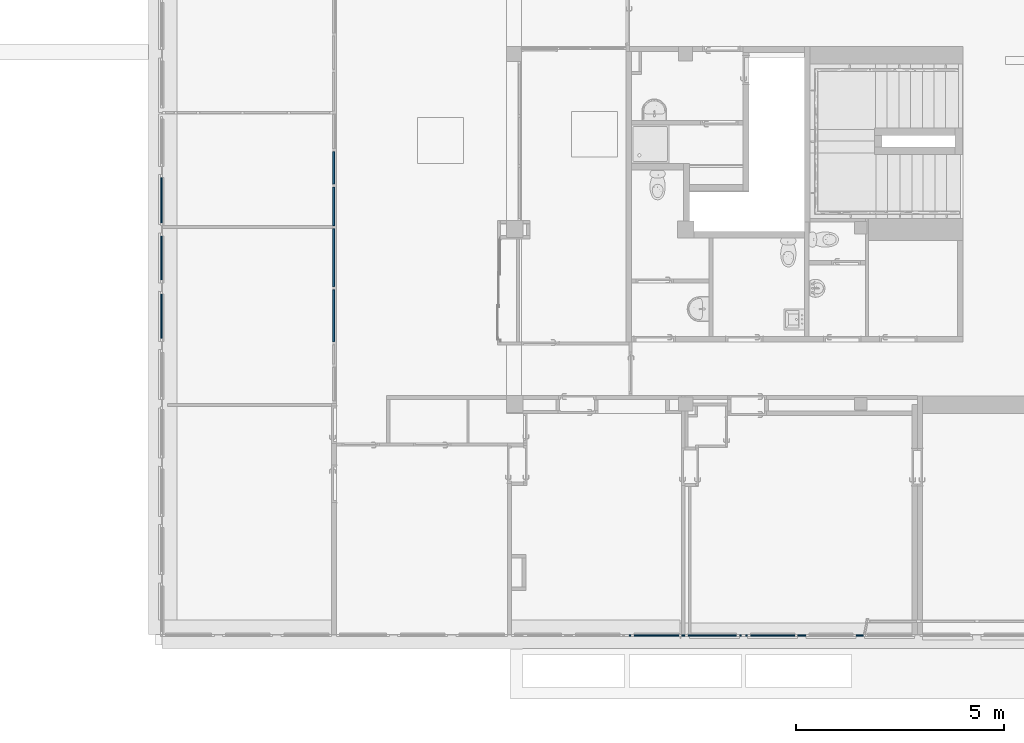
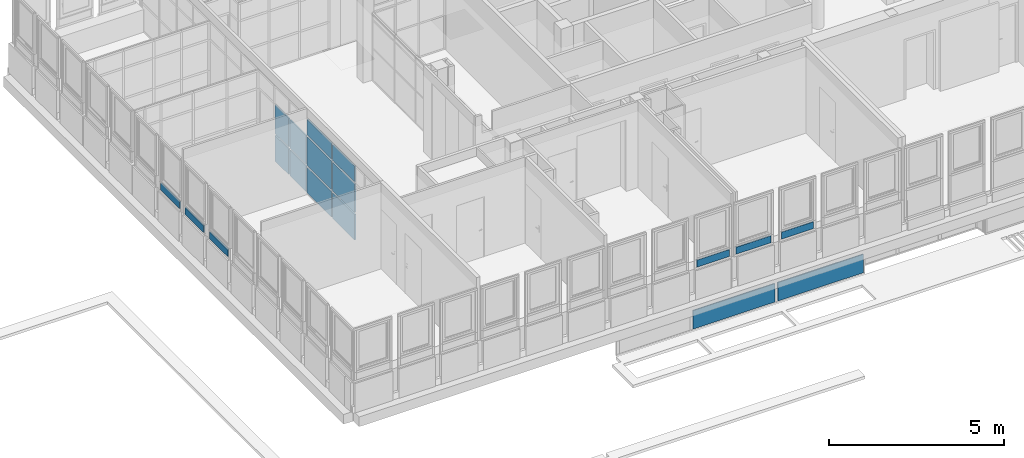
# One storey, part 27 of 97: 18 plates, 8 elements without a shape of their own.
"""IFC4 building model written with IfcOpenShell, lengths in metres."""

from ifc_helpers import new_model, entity, si_unit, converted_unit, derived_unit, direction, frame, origin, place, context, subcontext, project, spatial, indexed_curve, outline, extrude, shape, source, transform, mapped, material, layer, layer_set, type_object, type_shapes, element, aggregate, save


model = new_model("IFC4")

# Units and contexts
model_context = context("Model", 3, precision=1e-05, world=origin(), true_north=direction((6.12303176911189e-17, 1.0)))
body_context = subcontext(model_context, "Body", "Model", "MODEL_VIEW")
footprint_context = subcontext(model_context, "FootPrint", "Model", "MODEL_VIEW")
ifc_project = project(units=[si_unit("LENGTHUNIT", "METRE"), si_unit("AREAUNIT", "SQUARE_METRE"), si_unit("VOLUMEUNIT", "CUBIC_METRE"), converted_unit("PLANEANGLEUNIT", "DEGREE", entity("IfcRatioMeasure", 0.0174532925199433), si_unit("PLANEANGLEUNIT", "RADIAN"), dimensions=[0, 0, 0, 0, 0, 0, 0]), si_unit("MASSUNIT", "GRAM", prefix="KILO"), derived_unit("MASSDENSITYUNIT", [(si_unit("MASSUNIT", "GRAM", prefix="KILO"), 1), (si_unit("LENGTHUNIT", "METRE"), -3)]), derived_unit("MOMENTOFINERTIAUNIT", [(si_unit("LENGTHUNIT", "METRE"), 4)]), si_unit("TIMEUNIT", "SECOND"), si_unit("FREQUENCYUNIT", "HERTZ"), si_unit("THERMODYNAMICTEMPERATUREUNIT", "DEGREE_CELSIUS"), derived_unit("THERMALTRANSMITTANCEUNIT", [(si_unit("MASSUNIT", "GRAM", prefix="KILO"), 1), (si_unit("THERMODYNAMICTEMPERATUREUNIT", "KELVIN"), -1), (si_unit("TIMEUNIT", "SECOND"), -3)]), derived_unit("VOLUMETRICFLOWRATEUNIT", [(si_unit("LENGTHUNIT", "METRE"), 3), (si_unit("TIMEUNIT", "SECOND"), -1)]), si_unit("ELECTRICCURRENTUNIT", "AMPERE"), si_unit("ELECTRICVOLTAGEUNIT", "VOLT"), si_unit("POWERUNIT", "WATT"), si_unit("FORCEUNIT", "NEWTON", prefix="KILO"), si_unit("ILLUMINANCEUNIT", "LUX"), si_unit("LUMINOUSFLUXUNIT", "LUMEN"), si_unit("LUMINOUSINTENSITYUNIT", "CANDELA"), derived_unit("USERDEFINED", [(si_unit("MASSUNIT", "GRAM", prefix="KILO"), -1), (si_unit("LENGTHUNIT", "METRE"), -2), (si_unit("TIMEUNIT", "SECOND"), 3), (si_unit("LUMINOUSFLUXUNIT", "LUMEN"), 1)]), derived_unit("LINEARVELOCITYUNIT", [(si_unit("LENGTHUNIT", "METRE"), 1), (si_unit("TIMEUNIT", "SECOND"), -1)]), si_unit("PRESSUREUNIT", "PASCAL"), derived_unit("USERDEFINED", [(si_unit("LENGTHUNIT", "METRE"), -2), (si_unit("MASSUNIT", "GRAM", prefix="KILO"), 1), (si_unit("TIMEUNIT", "SECOND"), -2)]), derived_unit("LINEARFORCEUNIT", [(si_unit("MASSUNIT", "GRAM", prefix="KILO"), 1), (si_unit("LENGTHUNIT", "METRE"), 1), (si_unit("TIMEUNIT", "SECOND"), -2), (si_unit("LENGTHUNIT", "METRE"), -1)]), derived_unit("PLANARFORCEUNIT", [(si_unit("MASSUNIT", "GRAM", prefix="KILO"), 1), (si_unit("LENGTHUNIT", "METRE"), 1), (si_unit("TIMEUNIT", "SECOND"), -2), (si_unit("LENGTHUNIT", "METRE"), -2)])], contexts=[model_context])

# Site, building, storey
site_placement = place(None, origin())
site = spatial("IfcSite", under=ifc_project, at=site_placement, Name="Default", CompositionType="ELEMENT")
building_placement = place(site_placement, origin())
building = spatial("IfcBuilding", under=site, at=building_placement, Name="HOTEL CONSULAIRE BOULOGNE SUR MER", CompositionType="ELEMENT")
storey_placement = place(building_placement, frame((0.0, 0.0, 3.62152697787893)))
storey = spatial("IfcBuildingStorey", under=building, at=storey_placement, Name="Niveau 1", CompositionType="ELEMENT", Elevation=3.62152697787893)

# Curtain wall, plates
curtain_wall_type = type_object("IfcCurtainWallType", Name="Mur-rideau:Simple panneau", PredefinedType="NOTDEFINED")
curtain_wall_1_placement = place(storey_placement, frame((0.0, 0.0, -3.62152697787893)))
curtain_wall_1 = element("IfcCurtainWall", 1, at=curtain_wall_1_placement, inside=storey, type_object=curtain_wall_type, Name="Mur-rideau:Simple panneau", ObjectType="Mur-rideau:Simple panneau", PredefinedType="NOTDEFINED")
ifc_material = material(Name="Verre", Category="Verre")
ifc_layer_1 = layer(ifc_material, 0.04, Name="Verre", Category="Verre")
ifc_layer_set_1 = layer_set([ifc_layer_1], Name="Mur-rideau:Simple panneau")
plate_type_1 = type_object("IfcPlateType", Name="Panneau système:Vitré", PredefinedType="CURTAIN_PANEL", material=ifc_layer_set_1)
shared_shape_1 = source(origin(), body_context, "Body", "SweptSolid", [
    extrude(outline(indexed_curve([(-0.02, -1.4125), (0.02, -1.4125), (0.02, 1.4125), (-0.02, 1.4125), (-0.02, -1.4125)], self_intersect=False)), frame((1.4125, 0.02, 0.0), z_axis=(0.0, 0.0, 1.0), x_axis=(0.0, 1.0, 0.0)), (0.0, 0.0, 1.0), 0.642526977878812),
])
shared_shape_2 = source(frame((-1.4125, 0.00500000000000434, 0.0)), footprint_context, "FootPrint", "Curve2D", [
    entity("IfcIndexedPolyCurve", entity("IfcCartesianPointList2D", [[1.84303, 0.00347600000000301], [1.84303, 0.043476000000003], [-0.98197, 0.043476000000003], [-0.98197, 0.00347600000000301], [1.84303, 0.00347600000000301]]), None, False),
])
type_shapes(plate_type_1, [shared_shape_1, shared_shape_2])
plate_1_placement = place(curtain_wall_1_placement, frame((3.03622682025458, -29.5560671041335, 2.36600000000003), z_axis=(0.0, 0.0, 1.0), x_axis=(-1.0, 0.0, 0.0)))
plate_1 = element("IfcPlate", 2, at=plate_1_placement, type_object=plate_type_1, material=ifc_layer_set_1, Name="Panneau système:Vitré", ObjectType="Panneau système:Vitré", PredefinedType="CURTAIN_PANEL", shapes=[
    shape(body_context, "Body", "MappedRepresentation", [mapped(shared_shape_1, transform((0.0, 0.0, 0.0), scale=1.0))]),
    shape(body_context, "Body", "MappedRepresentation", [mapped(shared_shape_2, transform((0.0, 0.0, 0.0), scale=1.0))]),
])
plate_type_2 = type_object("IfcPlateType", Name="Panneau système:Vitré", PredefinedType="CURTAIN_PANEL", material=ifc_layer_set_1)
shared_shape_3 = source(origin(), body_context, "Body", "SweptSolid", [
    extrude(outline(indexed_curve([(-0.02, -1.3525), (0.02, -1.3525), (0.02, 1.3525), (-0.02, 1.3525), (-0.02, -1.3525)], self_intersect=False)), frame((1.3525, 0.02, 0.0), z_axis=(0.0, 0.0, 1.0), x_axis=(0.0, 1.0, 0.0)), (0.0, 0.0, 1.0), 0.642526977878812),
])
shared_shape_4 = source(frame((-1.3525, 0.00500000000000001, 0.0)), footprint_context, "FootPrint", "Curve2D", [
    entity("IfcIndexedPolyCurve", entity("IfcCartesianPointList2D", [[1.764742, 0.003476], [1.764742, 0.043476], [-0.940258, 0.043476], [-0.940258, 0.003476], [1.764742, 0.003476]]), None, False),
])
type_shapes(plate_type_2, [shared_shape_3, shared_shape_4])
plate_2_placement = place(curtain_wall_1_placement, frame((0.11122682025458, -29.5560671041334, 2.36600000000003), z_axis=(0.0, 0.0, 1.0), x_axis=(-1.0, 0.0, 0.0)))
plate_2 = element("IfcPlate", 3, at=plate_2_placement, type_object=plate_type_2, material=ifc_layer_set_1, Name="Panneau système:Vitré", ObjectType="Panneau système:Vitré", PredefinedType="CURTAIN_PANEL", shapes=[
    shape(body_context, "Body", "MappedRepresentation", [mapped(shared_shape_3, transform((0.0, 0.0, 0.0), scale=1.0))]),
    shape(body_context, "Body", "MappedRepresentation", [mapped(shared_shape_4, transform((0.0, 0.0, 0.0), scale=1.0))]),
])
aggregate(curtain_wall_1, [plate_1, plate_2])

# Curtain wall, plate
curtain_wall_2_placement = place(storey_placement, frame((0.0, 0.0, -3.62152697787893)))
curtain_wall_2 = element("IfcCurtainWall", 4, at=curtain_wall_2_placement, inside=storey, type_object=curtain_wall_type, Name="Mur-rideau:Simple panneau", ObjectType="Mur-rideau:Simple panneau", PredefinedType="NOTDEFINED")
plate_type_3 = type_object("IfcPlateType", Name="Panneau système:Vitré", PredefinedType="CURTAIN_PANEL", material=ifc_layer_set_1)
shared_shape_5 = source(origin(), body_context, "Body", "SweptSolid", [
    extrude(outline(indexed_curve([(-0.02, -0.54294235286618), (0.02, -0.54294235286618), (0.02, 0.54294235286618), (-0.02, 0.54294235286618), (-0.02, -0.54294235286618)], self_intersect=False)), frame((0.54294235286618, 0.02, 0.0), z_axis=(0.0, 0.0, 1.0), x_axis=(0.0, 1.0, 0.0)), (0.0, 0.0, 1.0), 0.243),
])
shared_shape_6 = source(frame((-0.54294235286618, 0.00500000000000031, 0.0)), footprint_context, "FootPrint", "Curve2D", [
    entity("IfcIndexedPolyCurve", entity("IfcCartesianPointList2D", [[0.708431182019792, 0.00347600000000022], [0.708431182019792, 0.0434760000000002], [-0.377453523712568, 0.0434760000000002], [-0.377453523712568, 0.00347600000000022], [0.708431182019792, 0.00347600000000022]]), None, False),
])
type_shapes(plate_type_3, [shared_shape_5, shared_shape_6])
plate_3_placement = place(curtain_wall_2_placement, frame((-13.7920998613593, -19.6673346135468, 4.48313951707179), z_axis=(0.0, 0.0, 1.0), x_axis=(0.0, 1.0, 0.0)))
plate_3 = element("IfcPlate", 5, at=plate_3_placement, type_object=plate_type_3, material=ifc_layer_set_1, Name="Panneau système:Vitré", ObjectType="Panneau système:Vitré", PredefinedType="CURTAIN_PANEL", shapes=[
    shape(body_context, "Body", "MappedRepresentation", [mapped(shared_shape_5, transform((0.0, 0.0, 0.0), scale=1.0))]),
    shape(body_context, "Body", "MappedRepresentation", [mapped(shared_shape_6, transform((0.0, 0.0, 0.0), scale=1.0))]),
])
aggregate(curtain_wall_2, [plate_3])

curtain_wall_3_placement = place(storey_placement, frame((0.0, 0.0, -3.62152697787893)))
curtain_wall_3 = element("IfcCurtainWall", 6, at=curtain_wall_3_placement, inside=storey, type_object=curtain_wall_type, Name="Mur-rideau:Simple panneau", ObjectType="Mur-rideau:Simple panneau", PredefinedType="NOTDEFINED")
plate_type_4 = type_object("IfcPlateType", Name="Panneau système:Vitré", PredefinedType="CURTAIN_PANEL", material=ifc_layer_set_1)
shared_shape_7 = source(origin(), body_context, "Body", "SweptSolid", [
    extrude(outline(indexed_curve([(-0.02, -0.530000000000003), (0.02, -0.530000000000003), (0.02, 0.530000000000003), (-0.02, 0.530000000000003), (-0.02, -0.530000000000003)], self_intersect=False)), frame((0.530000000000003, 0.02, 0.0), z_axis=(0.0, 0.0, 1.0), x_axis=(0.0, 1.0, 0.0)), (0.0, 0.0, 1.0), 0.243),
])
shared_shape_8 = source(frame((-0.530000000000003, 0.00500000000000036, 0.0)), footprint_context, "FootPrint", "Curve2D", [
    entity("IfcIndexedPolyCurve", entity("IfcCartesianPointList2D", [[0.691544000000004, 0.00347600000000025], [0.691544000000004, 0.0434760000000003], [-0.368456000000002, 0.0434760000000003], [-0.368456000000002, 0.00347600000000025], [0.691544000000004, 0.00347600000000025]]), None, False),
])
type_shapes(plate_type_4, [shared_shape_7, shared_shape_8])
plate_4_placement = place(curtain_wall_3_placement, frame((-13.7920998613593, -21.0414499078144, 4.48313951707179), z_axis=(0.0, 0.0, 1.0), x_axis=(0.0, 1.0, 0.0)))
plate_4 = element("IfcPlate", 7, at=plate_4_placement, type_object=plate_type_4, material=ifc_layer_set_1, Name="Panneau système:Vitré", ObjectType="Panneau système:Vitré", PredefinedType="CURTAIN_PANEL", shapes=[
    shape(body_context, "Body", "MappedRepresentation", [mapped(shared_shape_7, transform((0.0, 0.0, 0.0), scale=1.0))]),
    shape(body_context, "Body", "MappedRepresentation", [mapped(shared_shape_8, transform((0.0, 0.0, 0.0), scale=1.0))]),
])
aggregate(curtain_wall_3, [plate_4])

curtain_wall_4_placement = place(storey_placement, frame((0.0, 0.0, -3.62152697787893)))
curtain_wall_4 = element("IfcCurtainWall", 8, at=curtain_wall_4_placement, inside=storey, type_object=curtain_wall_type, Name="Mur-rideau:Simple panneau", ObjectType="Mur-rideau:Simple panneau", PredefinedType="NOTDEFINED")
plate_5_placement = place(curtain_wall_4_placement, frame((-13.7920998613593, -22.4414499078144, 4.48313951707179), z_axis=(0.0, 0.0, 1.0), x_axis=(0.0, 1.0, 0.0)))
plate_5 = element("IfcPlate", 9, at=plate_5_placement, type_object=plate_type_4, material=ifc_layer_set_1, Name="Panneau système:Vitré", ObjectType="Panneau système:Vitré", PredefinedType="CURTAIN_PANEL", shapes=[
    shape(body_context, "Body", "MappedRepresentation", [mapped(shared_shape_7, transform((0.0, 0.0, 0.0), scale=1.0))]),
    shape(body_context, "Body", "MappedRepresentation", [mapped(shared_shape_8, transform((0.0, 0.0, 0.0), scale=1.0))]),
])
aggregate(curtain_wall_4, [plate_5])

curtain_wall_5_placement = place(storey_placement, frame((0.0, 0.0, -3.62152697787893)))
curtain_wall_5 = element("IfcCurtainWall", 10, at=curtain_wall_5_placement, inside=storey, type_object=curtain_wall_type, Name="Mur-rideau:Simple panneau", ObjectType="Mur-rideau:Simple panneau", PredefinedType="NOTDEFINED")
plate_6_placement = place(curtain_wall_5_placement, frame((1.38858002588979, -29.5551047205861, 4.48313951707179), z_axis=(0.0, 0.0, 1.0), x_axis=(-1.0, 0.0, 0.0)))
plate_6 = element("IfcPlate", 11, at=plate_6_placement, type_object=plate_type_4, material=ifc_layer_set_1, Name="Panneau système:Vitré", ObjectType="Panneau système:Vitré", PredefinedType="CURTAIN_PANEL", shapes=[
    shape(body_context, "Body", "MappedRepresentation", [mapped(shared_shape_7, transform((0.0, 0.0, 0.0), scale=1.0))]),
    shape(body_context, "Body", "MappedRepresentation", [mapped(shared_shape_8, transform((0.0, 0.0, 0.0), scale=1.0))]),
])
aggregate(curtain_wall_5, [plate_6])

curtain_wall_6_placement = place(storey_placement, frame((0.0, 0.0, -3.62152697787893)))
curtain_wall_6 = element("IfcCurtainWall", 12, at=curtain_wall_6_placement, inside=storey, type_object=curtain_wall_type, Name="Mur-rideau:Simple panneau", ObjectType="Mur-rideau:Simple panneau", PredefinedType="NOTDEFINED")
plate_type_5 = type_object("IfcPlateType", Name="Panneau système:Vitré", PredefinedType="CURTAIN_PANEL", material=ifc_layer_set_1)
shared_shape_9 = source(origin(), body_context, "Body", "SweptSolid", [
    extrude(outline(indexed_curve([(-0.02, -0.538637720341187), (0.02, -0.538637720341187), (0.02, 0.538637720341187), (-0.02, 0.538637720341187), (-0.02, -0.538637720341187)], self_intersect=False)), frame((0.538637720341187, 0.02, 0.0), z_axis=(0.0, 0.0, 1.0), x_axis=(0.0, 1.0, 0.0)), (0.0, 0.0, 1.0), 0.243),
])
shared_shape_10 = source(frame((-0.538637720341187, 0.00499999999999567, 0.0)), footprint_context, "FootPrint", "Curve2D", [
    entity("IfcIndexedPolyCurve", entity("IfcCartesianPointList2D", [[0.70281449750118, 0.00347599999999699], [0.70281449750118, 0.043475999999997], [-0.374460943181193, 0.043475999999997], [-0.374460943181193, 0.00347599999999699], [0.70281449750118, 0.00347599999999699]]), None, False),
])
type_shapes(plate_type_5, [shared_shape_9, shared_shape_10])
plate_7_placement = place(curtain_wall_6_placement, frame((-1.39414453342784, -29.5551047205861, 4.48313951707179), z_axis=(0.0, 0.0, 1.0), x_axis=(-1.0, 0.0, 0.0)))
plate_7 = element("IfcPlate", 13, at=plate_7_placement, type_object=plate_type_5, material=ifc_layer_set_1, Name="Panneau système:Vitré", ObjectType="Panneau système:Vitré", PredefinedType="CURTAIN_PANEL", shapes=[
    shape(body_context, "Body", "MappedRepresentation", [mapped(shared_shape_9, transform((0.0, 0.0, 0.0), scale=1.0))]),
    shape(body_context, "Body", "MappedRepresentation", [mapped(shared_shape_10, transform((0.0, 0.0, 0.0), scale=1.0))]),
])
aggregate(curtain_wall_6, [plate_7])

curtain_wall_7_placement = place(storey_placement, frame((0.0, 0.0, -3.62152697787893)))
curtain_wall_7 = element("IfcCurtainWall", 14, at=curtain_wall_7_placement, inside=storey, type_object=curtain_wall_type, Name="Mur-rideau:Simple panneau", ObjectType="Mur-rideau:Simple panneau", PredefinedType="NOTDEFINED")
plate_type_6 = type_object("IfcPlateType", Name="Panneau système:Vitré", PredefinedType="CURTAIN_PANEL", material=ifc_layer_set_1)
shared_shape_11 = source(origin(), body_context, "Body", "SweptSolid", [
    extrude(outline(indexed_curve([(-0.019999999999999, -0.581362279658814), (0.020000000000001, -0.581362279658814), (0.019999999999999, 0.581362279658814), (-0.020000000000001, 0.581362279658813), (-0.019999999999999, -0.581362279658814)], self_intersect=False)), frame((0.581362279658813, 0.02, 0.0), z_axis=(0.0, 0.0, 1.0), x_axis=(0.0, 1.0, 0.0)), (0.0, 0.0, 1.0), 0.243),
])
shared_shape_12 = source(frame((-0.581362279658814, 0.00500000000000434, 0.0)), footprint_context, "FootPrint", "Curve2D", [
    entity("IfcIndexedPolyCurve", entity("IfcCartesianPointList2D", [[0.75856150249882, 0.00347600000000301], [0.75856150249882, 0.043476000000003], [-0.404163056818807, 0.043476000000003], [-0.404163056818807, 0.00347600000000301], [0.75856150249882, 0.00347600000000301]]), None, False),
])
type_shapes(plate_type_6, [shared_shape_11, shared_shape_12])
plate_8_placement = place(curtain_wall_7_placement, frame((-0.0114199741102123, -29.5551047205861, 4.48313951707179), z_axis=(0.0, 0.0, 1.0), x_axis=(-1.0, 0.0, 0.0)))
plate_8 = element("IfcPlate", 15, at=plate_8_placement, type_object=plate_type_6, material=ifc_layer_set_1, Name="Panneau système:Vitré", ObjectType="Panneau système:Vitré", PredefinedType="CURTAIN_PANEL", shapes=[
    shape(body_context, "Body", "MappedRepresentation", [mapped(shared_shape_11, transform((0.0, 0.0, 0.0), scale=1.0))]),
    shape(body_context, "Body", "MappedRepresentation", [mapped(shared_shape_12, transform((0.0, 0.0, 0.0), scale=1.0))]),
])
aggregate(curtain_wall_7, [plate_8])

# Curtain wall, plates
curtain_wall_8_placement = place(storey_placement, frame((0.0, 0.0, -3.62152697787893)))
curtain_wall_8 = element("IfcCurtainWall", 16, at=curtain_wall_8_placement, inside=storey, type_object=curtain_wall_type, Name="Mur-rideau:Simple panneau", ObjectType="Mur-rideau:Simple panneau", PredefinedType="NOTDEFINED")
ifc_layer_2 = layer(ifc_material, 0.04, Name="Verre", Category="Verre")
ifc_layer_set_2 = layer_set([ifc_layer_2], Name="Mur-rideau:Simple panneau")
plate_type_7 = type_object("IfcPlateType", Name="Panneau système:Plein", PredefinedType="CURTAIN_PANEL", material=ifc_layer_set_2)
shared_shape_13 = source(origin(), body_context, "Body", "SweptSolid", [
    extrude(outline(indexed_curve([(-0.02, -0.624999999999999), (0.02, -0.624999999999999), (0.02, 0.624999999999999), (-0.02, 0.624999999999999), (-0.02, -0.624999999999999)], self_intersect=False)), frame((0.624999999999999, 0.02, 0.0), z_axis=(0.0, 0.0, 1.0), x_axis=(0.0, 1.0, 0.0)), (0.0, 0.0, 1.0), 0.891960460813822),
])
shared_shape_14 = source(frame((-0.625000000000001, 0.00499999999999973, 0.0)), footprint_context, "FootPrint", "Curve2D", [
    entity("IfcIndexedPolyCurve", entity("IfcCartesianPointList2D", [[0.815499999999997, 0.00347599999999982], [0.815499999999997, 0.0434759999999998], [-0.434500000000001, 0.0434759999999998], [-0.434500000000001, 0.00347599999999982], [0.815499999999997, 0.00347599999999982]]), None, False),
])
type_shapes(plate_type_7, [shared_shape_13, shared_shape_14])
plate_9_placement = place(curtain_wall_8_placement, frame((-9.65462464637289, -22.5202596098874, 3.67152697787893), z_axis=(0.0, 0.0, 1.0), x_axis=(0.0, 1.0, 0.0)))
plate_9 = element("IfcPlate", 17, at=plate_9_placement, type_object=plate_type_7, material=ifc_layer_set_2, Name="Panneau système:Plein", ObjectType="Panneau système:Plein", PredefinedType="CURTAIN_PANEL", shapes=[
    shape(body_context, "Body", "MappedRepresentation", [mapped(shared_shape_13, transform((0.0, 0.0, 0.0), scale=1.0))]),
    shape(body_context, "Body", "MappedRepresentation", [mapped(shared_shape_14, transform((0.0, 0.0, 0.0), scale=1.0))]),
])
plate_type_8 = type_object("IfcPlateType", Name="Panneau système:Plein", PredefinedType="CURTAIN_PANEL", material=ifc_layer_set_2)
shared_shape_15 = source(origin(), body_context, "Body", "SweptSolid", [
    extrude(outline(indexed_curve([(-0.02, -0.695), (0.02, -0.695), (0.02, 0.695), (-0.02, 0.695), (-0.02, -0.695)], self_intersect=False)), frame((0.695, 0.02, 0.0), z_axis=(0.0, 0.0, 1.0), x_axis=(0.0, 1.0, 0.0)), (0.0, 0.0, 1.0), 0.891960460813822),
])
shared_shape_16 = source(frame((-0.694999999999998, 0.00499999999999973, 0.0)), footprint_context, "FootPrint", "Curve2D", [
    entity("IfcIndexedPolyCurve", entity("IfcCartesianPointList2D", [[0.906836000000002, 0.00347599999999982], [0.906836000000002, 0.0434759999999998], [-0.483163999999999, 0.0434759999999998], [-0.483163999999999, 0.00347599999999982], [0.906836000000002, 0.00347599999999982]]), None, False),
])
type_shapes(plate_type_8, [shared_shape_15, shared_shape_16])
plate_10_placement = place(curtain_wall_8_placement, frame((-9.65462464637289, -21.2002596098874, 3.67152697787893), z_axis=(0.0, 0.0, 1.0), x_axis=(0.0, 1.0, 0.0)))
plate_10 = element("IfcPlate", 18, at=plate_10_placement, type_object=plate_type_8, material=ifc_layer_set_2, Name="Panneau système:Plein", ObjectType="Panneau système:Plein", PredefinedType="CURTAIN_PANEL", shapes=[
    shape(body_context, "Body", "MappedRepresentation", [mapped(shared_shape_15, transform((0.0, 0.0, 0.0), scale=1.0))]),
    shape(body_context, "Body", "MappedRepresentation", [mapped(shared_shape_16, transform((0.0, 0.0, 0.0), scale=1.0))]),
])
plate_type_9 = type_object("IfcPlateType", Name="Panneau système:Plein", PredefinedType="CURTAIN_PANEL", material=ifc_layer_set_2)
shared_shape_17 = source(origin(), body_context, "Body", "SweptSolid", [
    extrude(outline(indexed_curve([(-0.02, -0.464999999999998), (0.02, -0.464999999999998), (0.02, 0.464999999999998), (-0.02, 0.464999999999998), (-0.02, -0.464999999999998)], self_intersect=False)), frame((0.464999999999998, 0.02, 0.0), z_axis=(0.0, 0.0, 1.0), x_axis=(0.0, 1.0, 0.0)), (0.0, 0.0, 1.0), 0.891960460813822),
])
shared_shape_18 = source(frame((-0.464999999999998, 0.00499999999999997, 0.0)), footprint_context, "FootPrint", "Curve2D", [
    entity("IfcIndexedPolyCurve", entity("IfcCartesianPointList2D", [[0.606731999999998, 0.00347599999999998], [0.606731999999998, 0.043476], [-0.323267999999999, 0.043476], [-0.323267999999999, 0.00347599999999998], [0.606731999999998, 0.00347599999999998]]), None, False),
])
type_shapes(plate_type_9, [shared_shape_17, shared_shape_18])
plate_11_placement = place(curtain_wall_8_placement, frame((-9.65462464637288, -19.7402596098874, 3.67152697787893), z_axis=(0.0, 0.0, 1.0), x_axis=(0.0, 1.0, 0.0)))
plate_11 = element("IfcPlate", 19, at=plate_11_placement, type_object=plate_type_9, material=ifc_layer_set_2, Name="Panneau système:Plein", ObjectType="Panneau système:Plein", PredefinedType="CURTAIN_PANEL", shapes=[
    shape(body_context, "Body", "MappedRepresentation", [mapped(shared_shape_17, transform((0.0, 0.0, 0.0), scale=1.0))]),
    shape(body_context, "Body", "MappedRepresentation", [mapped(shared_shape_18, transform((0.0, 0.0, 0.0), scale=1.0))]),
])
plate_type_10 = type_object("IfcPlateType", Name="Panneau système:Plein", PredefinedType="CURTAIN_PANEL", material=ifc_layer_set_2)
shared_shape_19 = source(origin(), body_context, "Body", "SweptSolid", [
    extrude(outline(indexed_curve([(-0.02, -0.389999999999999), (0.02, -0.389999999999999), (0.02, 0.389999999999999), (-0.02, 0.389999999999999), (-0.02, -0.389999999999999)], self_intersect=False)), frame((0.389999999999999, 0.02, 0.0), z_axis=(0.0, 0.0, 1.0), x_axis=(0.0, 1.0, 0.0)), (0.0, 0.0, 1.0), 0.891960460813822),
])
shared_shape_20 = source(frame((-0.389999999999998, 0.00500000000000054, 0.0)), footprint_context, "FootPrint", "Curve2D", [
    entity("IfcIndexedPolyCurve", entity("IfcCartesianPointList2D", [[0.508872, 0.00347600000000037], [0.508872, 0.0434760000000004], [-0.271127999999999, 0.0434760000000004], [-0.271127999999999, 0.00347600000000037], [0.508872, 0.00347600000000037]]), None, False),
])
type_shapes(plate_type_10, [shared_shape_19, shared_shape_20])
plate_12_placement = place(curtain_wall_8_placement, frame((-9.65462464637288, -18.7402596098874, 3.67152697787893), z_axis=(0.0, 0.0, 1.0), x_axis=(0.0, 1.0, 0.0)))
plate_12 = element("IfcPlate", 20, at=plate_12_placement, type_object=plate_type_10, material=ifc_layer_set_2, Name="Panneau système:Plein", ObjectType="Panneau système:Plein", PredefinedType="CURTAIN_PANEL", shapes=[
    shape(body_context, "Body", "MappedRepresentation", [mapped(shared_shape_19, transform((0.0, 0.0, 0.0), scale=1.0))]),
    shape(body_context, "Body", "MappedRepresentation", [mapped(shared_shape_20, transform((0.0, 0.0, 0.0), scale=1.0))]),
])
plate_type_11 = type_object("IfcPlateType", Name="Panneau système:Vitré", PredefinedType="CURTAIN_PANEL", material=ifc_layer_set_1)
shared_shape_21 = source(origin(), body_context, "Body", "SweptSolid", [
    extrude(outline(indexed_curve([(-0.356333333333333, -0.624999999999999), (-0.286333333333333, -0.624999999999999), (0.642666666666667, -0.624999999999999), (0.642666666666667, 0.624999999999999), (-0.286333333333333, 0.624999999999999), (-0.356333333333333, 0.624999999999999), (-0.356333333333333, -0.624999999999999)], self_intersect=False)), frame((0.624999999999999, 0.0, 0.356333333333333), z_axis=(0.0, 1.0, 0.0), x_axis=(0.0, 0.0, 1.0)), (0.0, 0.0, 1.0), 0.04),
])
shared_shape_22 = source(frame((-0.625000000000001, 0.00499999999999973, 0.0)), footprint_context, "FootPrint", "Curve2D", [
    entity("IfcIndexedPolyCurve", entity("IfcCartesianPointList2D", [[-0.434500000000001, 0.00347599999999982], [-0.434500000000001, 0.00347599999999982], [-0.434500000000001, 0.00347599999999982], [0.815499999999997, 0.00347599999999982], [0.815499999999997, 0.00347599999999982], [0.815499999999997, 0.00347599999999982], [-0.434500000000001, 0.00347599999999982]]), None, False),
])
type_shapes(plate_type_11, [shared_shape_21, shared_shape_22])
plate_13_placement = place(curtain_wall_8_placement, frame((-9.65462464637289, -22.5202596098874, 4.63348743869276), z_axis=(0.0, 0.0, 1.0), x_axis=(0.0, 1.0, 0.0)))
plate_13 = element("IfcPlate", 21, at=plate_13_placement, type_object=plate_type_11, material=ifc_layer_set_1, Name="Panneau système:Vitré", ObjectType="Panneau système:Vitré", PredefinedType="CURTAIN_PANEL", shapes=[
    shape(body_context, "Body", "MappedRepresentation", [mapped(shared_shape_21, transform((0.0, 0.0, 0.0), scale=1.0))]),
    shape(body_context, "Body", "MappedRepresentation", [mapped(shared_shape_22, transform((0.0, 0.0, 0.0), scale=1.0))]),
])
plate_type_12 = type_object("IfcPlateType", Name="Panneau système:Vitré", PredefinedType="CURTAIN_PANEL", material=ifc_layer_set_1)
shared_shape_23 = source(origin(), body_context, "Body", "SweptSolid", [
    extrude(outline(indexed_curve([(-0.356333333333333, -0.695), (-0.286333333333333, -0.695), (0.642666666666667, -0.695), (0.642666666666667, 0.695), (-0.286333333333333, 0.695), (-0.356333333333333, 0.695), (-0.356333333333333, -0.695)], self_intersect=False)), frame((0.695, 0.0, 0.356333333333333), z_axis=(0.0, 1.0, 0.0), x_axis=(0.0, 0.0, 1.0)), (0.0, 0.0, 1.0), 0.04),
])
shared_shape_24 = source(frame((-0.694999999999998, 0.00499999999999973, 0.0)), footprint_context, "FootPrint", "Curve2D", [
    entity("IfcIndexedPolyCurve", entity("IfcCartesianPointList2D", [[-0.483163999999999, 0.00347599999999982], [-0.483163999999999, 0.00347599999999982], [-0.483163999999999, 0.00347599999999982], [0.906836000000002, 0.00347599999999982], [0.906836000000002, 0.00347599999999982], [0.906836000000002, 0.00347599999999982], [-0.483163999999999, 0.00347599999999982]]), None, False),
])
type_shapes(plate_type_12, [shared_shape_23, shared_shape_24])
plate_14_placement = place(curtain_wall_8_placement, frame((-9.65462464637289, -21.2002596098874, 4.63348743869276), z_axis=(0.0, 0.0, 1.0), x_axis=(0.0, 1.0, 0.0)))
plate_14 = element("IfcPlate", 22, at=plate_14_placement, type_object=plate_type_12, material=ifc_layer_set_1, Name="Panneau système:Vitré", ObjectType="Panneau système:Vitré", PredefinedType="CURTAIN_PANEL", shapes=[
    shape(body_context, "Body", "MappedRepresentation", [mapped(shared_shape_23, transform((0.0, 0.0, 0.0), scale=1.0))]),
    shape(body_context, "Body", "MappedRepresentation", [mapped(shared_shape_24, transform((0.0, 0.0, 0.0), scale=1.0))]),
])
plate_type_13 = type_object("IfcPlateType", Name="Panneau système:Vitré", PredefinedType="CURTAIN_PANEL", material=ifc_layer_set_1)
shared_shape_25 = source(origin(), body_context, "Body", "SweptSolid", [
    extrude(outline(indexed_curve([(-0.356333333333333, -0.464999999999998), (-0.286333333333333, -0.464999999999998), (0.642666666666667, -0.464999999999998), (0.642666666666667, 0.464999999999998), (-0.286333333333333, 0.464999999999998), (-0.356333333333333, 0.464999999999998), (-0.356333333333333, -0.464999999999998)], self_intersect=False)), frame((0.464999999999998, 0.0, 0.356333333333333), z_axis=(0.0, 1.0, 0.0), x_axis=(0.0, 0.0, 1.0)), (0.0, 0.0, 1.0), 0.04),
])
shared_shape_26 = source(frame((-0.464999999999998, 0.00499999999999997, 0.0)), footprint_context, "FootPrint", "Curve2D", [
    entity("IfcIndexedPolyCurve", entity("IfcCartesianPointList2D", [[-0.323267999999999, 0.00347599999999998], [-0.323267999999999, 0.00347599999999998], [-0.323267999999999, 0.00347599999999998], [0.606731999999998, 0.00347599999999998], [0.606731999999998, 0.00347599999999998], [0.606731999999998, 0.00347599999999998], [-0.323267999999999, 0.00347599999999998]]), None, False),
])
type_shapes(plate_type_13, [shared_shape_25, shared_shape_26])
plate_15_placement = place(curtain_wall_8_placement, frame((-9.65462464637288, -19.7402596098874, 4.63348743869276), z_axis=(0.0, 0.0, 1.0), x_axis=(0.0, 1.0, 0.0)))
plate_15 = element("IfcPlate", 23, at=plate_15_placement, type_object=plate_type_13, material=ifc_layer_set_1, Name="Panneau système:Vitré", ObjectType="Panneau système:Vitré", PredefinedType="CURTAIN_PANEL", shapes=[
    shape(body_context, "Body", "MappedRepresentation", [mapped(shared_shape_25, transform((0.0, 0.0, 0.0), scale=1.0))]),
    shape(body_context, "Body", "MappedRepresentation", [mapped(shared_shape_26, transform((0.0, 0.0, 0.0), scale=1.0))]),
])
plate_type_14 = type_object("IfcPlateType", Name="Panneau système:Vitré", PredefinedType="CURTAIN_PANEL", material=ifc_layer_set_1)
shared_shape_27 = source(origin(), body_context, "Body", "SweptSolid", [
    extrude(outline(indexed_curve([(-0.356333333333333, -0.389999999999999), (-0.286333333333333, -0.389999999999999), (0.642666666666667, -0.389999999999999), (0.642666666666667, 0.389999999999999), (-0.286333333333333, 0.389999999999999), (-0.356333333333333, 0.389999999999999), (-0.356333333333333, -0.389999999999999)], self_intersect=False)), frame((0.389999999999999, 0.0, 0.356333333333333), z_axis=(0.0, 1.0, 0.0), x_axis=(0.0, 0.0, 1.0)), (0.0, 0.0, 1.0), 0.04),
])
shared_shape_28 = source(frame((-0.389999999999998, 0.00500000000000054, 0.0)), footprint_context, "FootPrint", "Curve2D", [
    entity("IfcIndexedPolyCurve", entity("IfcCartesianPointList2D", [[-0.271127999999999, 0.00347600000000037], [-0.271127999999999, 0.00347600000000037], [-0.271127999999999, 0.00347600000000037], [0.508872, 0.00347600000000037], [0.508872, 0.00347600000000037], [0.508872, 0.00347600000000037], [-0.271127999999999, 0.00347600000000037]]), None, False),
])
type_shapes(plate_type_14, [shared_shape_27, shared_shape_28])
plate_16_placement = place(curtain_wall_8_placement, frame((-9.65462464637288, -18.7402596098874, 4.63348743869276), z_axis=(0.0, 0.0, 1.0), x_axis=(0.0, 1.0, 0.0)))
plate_16 = element("IfcPlate", 24, at=plate_16_placement, type_object=plate_type_14, material=ifc_layer_set_1, Name="Panneau système:Vitré", ObjectType="Panneau système:Vitré", PredefinedType="CURTAIN_PANEL", shapes=[
    shape(body_context, "Body", "MappedRepresentation", [mapped(shared_shape_27, transform((0.0, 0.0, 0.0), scale=1.0))]),
    shape(body_context, "Body", "MappedRepresentation", [mapped(shared_shape_28, transform((0.0, 0.0, 0.0), scale=1.0))]),
])
plate_type_15 = type_object("IfcPlateType", Name="Panneau système:Vitré", PredefinedType="CURTAIN_PANEL", material=ifc_layer_set_1)
shared_shape_29 = source(origin(), body_context, "Body", "SweptSolid", [
    extrude(outline(indexed_curve([(-0.02, -0.624999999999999), (0.02, -0.624999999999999), (0.02, 0.624999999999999), (-0.02, 0.624999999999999), (-0.02, -0.624999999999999)], self_intersect=False)), frame((0.624999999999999, 0.02, 0.0), z_axis=(0.0, 0.0, 1.0), x_axis=(0.0, 1.0, 0.0)), (0.0, 0.0, 1.0), 0.546),
])
shared_shape_30 = source(frame((-0.625000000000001, 0.00499999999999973, 0.0)), footprint_context, "FootPrint", "Curve2D", [
    entity("IfcIndexedPolyCurve", entity("IfcCartesianPointList2D", [[0.815499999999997, 0.00347599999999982], [0.815499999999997, 0.0434759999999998], [-0.434500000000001, 0.0434759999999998], [-0.434500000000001, 0.00347599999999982], [0.815499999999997, 0.00347599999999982]]), None, False),
])
type_shapes(plate_type_15, [shared_shape_29, shared_shape_30])
plate_17_placement = place(curtain_wall_8_placement, frame((-9.65462464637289, -22.5202596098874, 5.70248743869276), z_axis=(0.0, 0.0, 1.0), x_axis=(0.0, 1.0, 0.0)))
plate_17 = element("IfcPlate", 25, at=plate_17_placement, type_object=plate_type_15, material=ifc_layer_set_1, Name="Panneau système:Vitré", ObjectType="Panneau système:Vitré", PredefinedType="CURTAIN_PANEL", shapes=[
    shape(body_context, "Body", "MappedRepresentation", [mapped(shared_shape_29, transform((0.0, 0.0, 0.0), scale=1.0))]),
    shape(body_context, "Body", "MappedRepresentation", [mapped(shared_shape_30, transform((0.0, 0.0, 0.0), scale=1.0))]),
])
plate_type_16 = type_object("IfcPlateType", Name="Panneau système:Vitré", PredefinedType="CURTAIN_PANEL", material=ifc_layer_set_1)
shared_shape_31 = source(origin(), body_context, "Body", "SweptSolid", [
    extrude(outline(indexed_curve([(-0.02, -0.695), (0.02, -0.695), (0.02, 0.695), (-0.02, 0.695), (-0.02, -0.695)], self_intersect=False)), frame((0.695, 0.02, 0.0), z_axis=(0.0, 0.0, 1.0), x_axis=(0.0, 1.0, 0.0)), (0.0, 0.0, 1.0), 0.546),
])
shared_shape_32 = source(frame((-0.694999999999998, 0.00499999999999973, 0.0)), footprint_context, "FootPrint", "Curve2D", [
    entity("IfcIndexedPolyCurve", entity("IfcCartesianPointList2D", [[0.906836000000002, 0.00347599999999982], [0.906836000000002, 0.0434759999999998], [-0.483163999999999, 0.0434759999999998], [-0.483163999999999, 0.00347599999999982], [0.906836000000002, 0.00347599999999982]]), None, False),
])
type_shapes(plate_type_16, [shared_shape_31, shared_shape_32])
plate_18_placement = place(curtain_wall_8_placement, frame((-9.65462464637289, -21.2002596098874, 5.70248743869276), z_axis=(0.0, 0.0, 1.0), x_axis=(0.0, 1.0, 0.0)))
plate_18 = element("IfcPlate", 26, at=plate_18_placement, type_object=plate_type_16, material=ifc_layer_set_1, Name="Panneau système:Vitré", ObjectType="Panneau système:Vitré", PredefinedType="CURTAIN_PANEL", shapes=[
    shape(body_context, "Body", "MappedRepresentation", [mapped(shared_shape_31, transform((0.0, 0.0, 0.0), scale=1.0))]),
    shape(body_context, "Body", "MappedRepresentation", [mapped(shared_shape_32, transform((0.0, 0.0, 0.0), scale=1.0))]),
])
aggregate(curtain_wall_8, [plate_9, plate_10, plate_11, plate_12, plate_13, plate_14, plate_15, plate_16, plate_17, plate_18])

save(model, "model.ifc")
